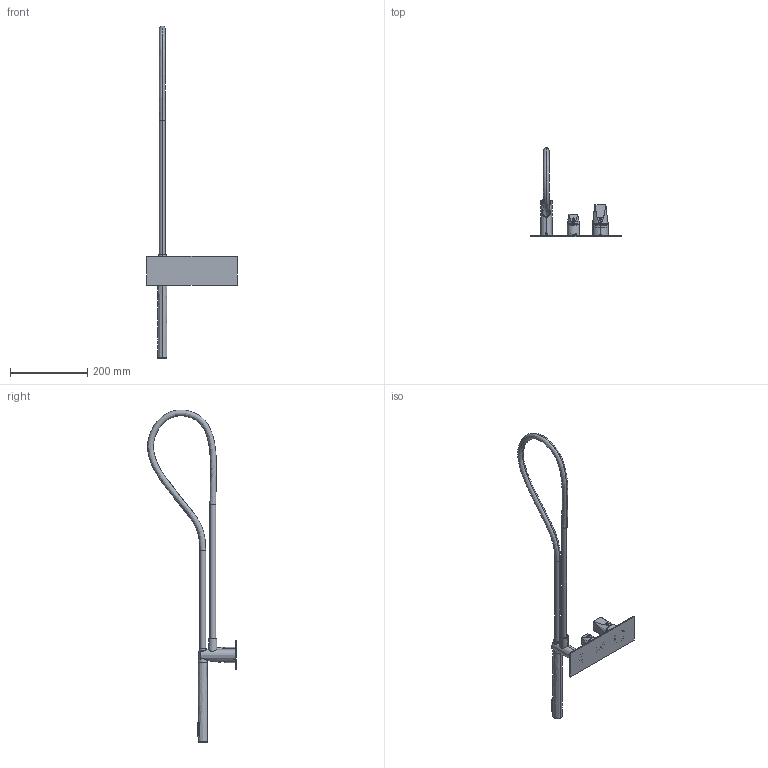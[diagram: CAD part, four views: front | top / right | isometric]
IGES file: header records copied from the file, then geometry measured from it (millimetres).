
Start section:  PTC IGES file: 49529V2.igs
Global section: file name: 49529V2.igs; native system: Creo Parametric by PTC Inc.; preprocessor: 2022014; author: carloff; organization: Unknown; date: 20230920.164836; units: millimetre
Bounding box: 235 x 229.92 x 859.8 mm (x, y, z)
Surface area: 172434.4 mm2 (no closed solid volume)
Topology: 0 solids, 0 shells, 890 faces, 4608 edges, 4600 vertices
Faces by surface type: revolution 531, bspline 359
